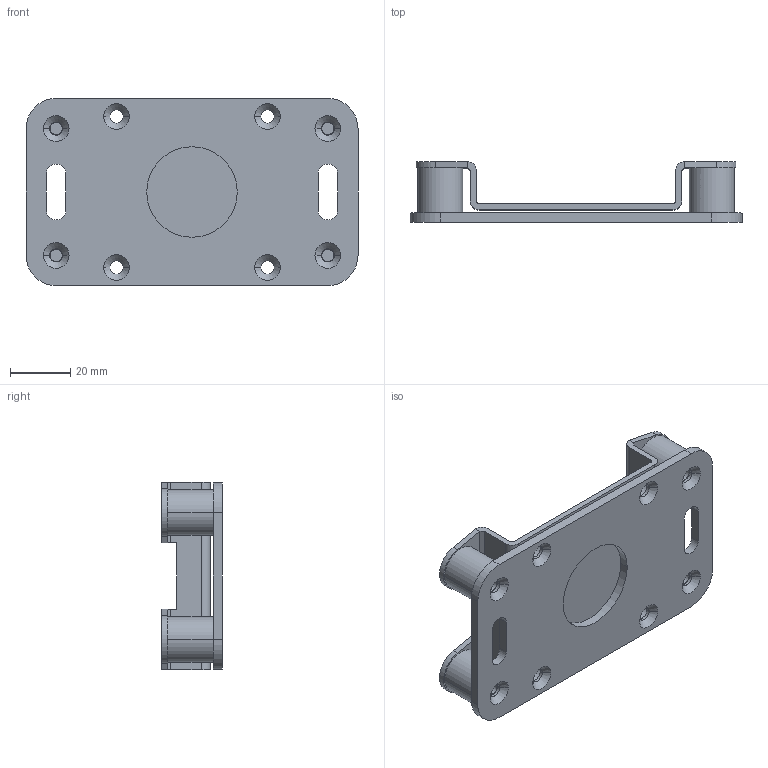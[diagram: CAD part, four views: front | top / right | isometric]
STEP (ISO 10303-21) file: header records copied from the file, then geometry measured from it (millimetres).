
FILE_DESCRIPTION(/* description */ (''),/* implementation_level */ '2;1');
FILE_NAME(/* name */ 'LS-ZJ-JZ.stp',/* time_stamp */ '2025-08-06T10:53:29+08:00',/* author */ (''),/* organization */ (''),/* preprocessor_version */ 'ST-DEVELOPER v16',/* originating_system */ 'SIEMENS PLM Software NX 10.0',/* authorisation */ '');
FILE_SCHEMA (('AP203_CONFIGURATION_CONTROLLED_3D_DESIGN_OF_MECHANICAL_PARTS_AND_ASSEMBLIES_MIM_LF { 1 0 10303 403 2 1 2}'));
Length unit declared in the file: millimetre
Products named in the file (1): JSB-34C87966jwsp
Bounding box: 110 x 20 x 62 mm (x, y, z)
Volume: 40040.9 mm3; surface area: 32397.2 mm2
Topology: 6 solids, 6 shells, 162 faces, 386 edges, 244 vertices
Faces by surface type: cylinder 78, plane 60, cone 24
Entity records: 4913 total; most frequent: DIRECTION 892, CARTESIAN_POINT 793, ORIENTED_EDGE 772, EDGE_CURVE 386, AXIS2_PLACEMENT_3D 343, VERTEX_POINT 244, EDGE_LOOP 208, LINE 206
